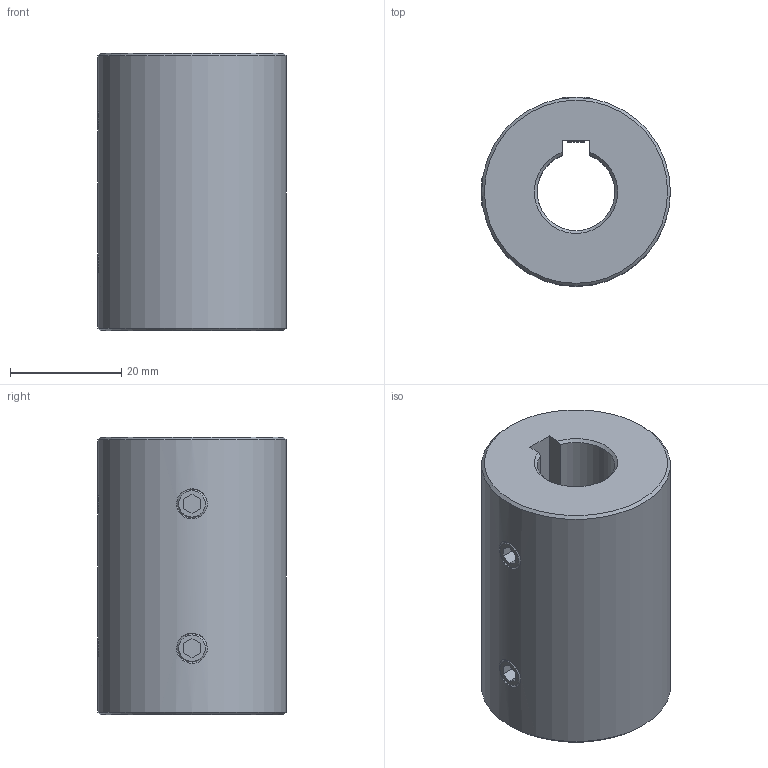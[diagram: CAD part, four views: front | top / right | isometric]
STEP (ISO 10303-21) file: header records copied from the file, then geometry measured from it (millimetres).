
FILE_DESCRIPTION (( 'STEP AP214' ), '1' );
FILE_NAME ('KBST1-VA-N14.STEP', '2025-07-29T07:22:17', ( '' ), ( '' ), 'SwSTEP 2.0', 'SolidWorks 2024', '' );
FILE_SCHEMA (( 'AUTOMOTIVE_DESIGN' ));
Length unit declared in the file: millimetre
Products named in the file (1): KBST1-VA-N14
Bounding box: 34 x 34 x 50 mm (x, y, z)
Volume: 36776.1 mm3; surface area: 10471.7 mm2
Topology: 5 solids, 5 shells, 85 faces, 197 edges, 116 vertices
Faces by surface type: plane 39, cone 28, cylinder 14, bspline 4
Full cylindrical faces by diameter (mm): 5 x4, 34 x1
Entity records: 7790 total; most frequent: CARTESIAN_POINT 4958, DIRECTION 370, ORIENTED_EDGE 352, EDGE_CURVE 176, AXIS2_PLACEMENT_3D 126, VECTOR 118, LINE 118, VERTEX_POINT 114
